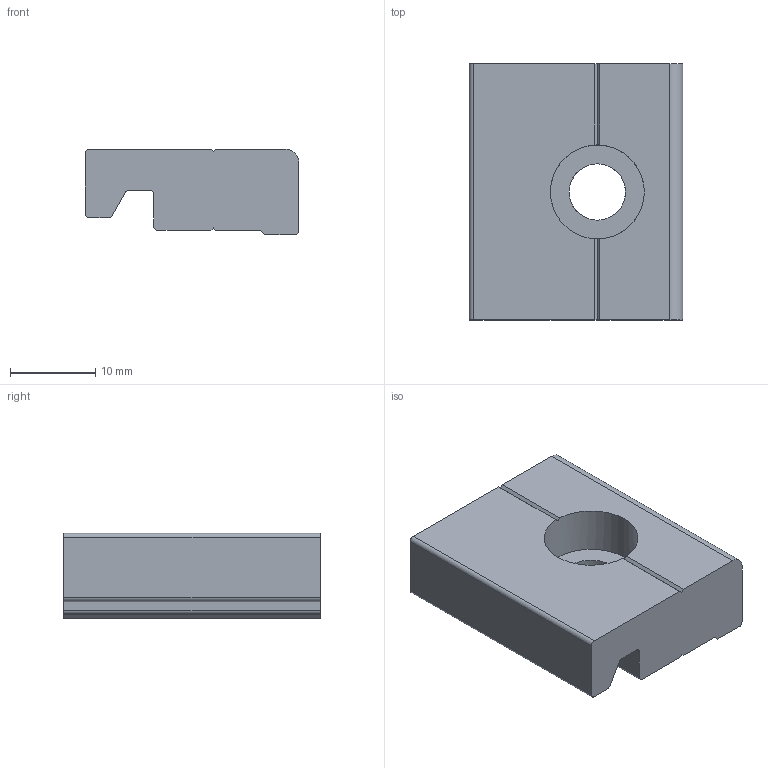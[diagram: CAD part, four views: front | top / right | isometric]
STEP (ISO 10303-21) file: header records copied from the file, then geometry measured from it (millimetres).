
FILE_DESCRIPTION(('STEP AP214'),'1');
FILE_NAME('SL3H-L30.stp','2017-07-26T07:22:30',(' '),(' '),'Spatial InterOp 3D',' ',' ');
FILE_SCHEMA(('automotive_design'));
Length unit declared in the file: millimetre
Products named in the file (1): SL3H-L30
Bounding box: 25 x 30 x 10 mm (x, y, z)
Volume: 5754.8 mm3; surface area: 2830.2 mm2
Topology: 1 solids, 1 shells, 33 faces, 94 edges, 62 vertices
Faces by surface type: plane 23, cylinder 10
Full cylindrical faces by diameter (mm): 6.6 x1, 11 x1
Entity records: 1356 total; most frequent: DIRECTION 190, CARTESIAN_POINT 188, ORIENTED_EDGE 184, EDGE_CURVE 92, AXIS2_PLACEMENT_3D 64, VERTEX_POINT 62, LINE 62, VECTOR 62
